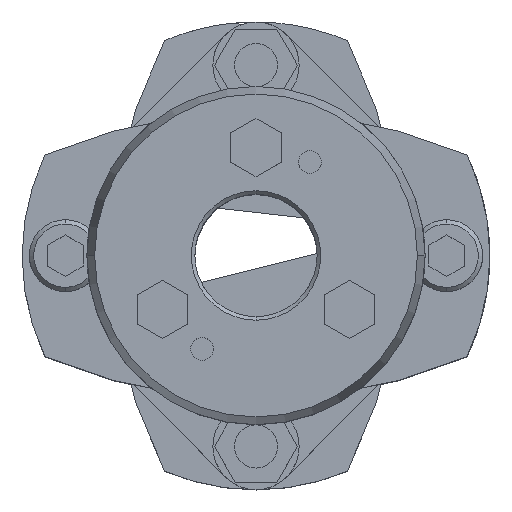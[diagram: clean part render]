
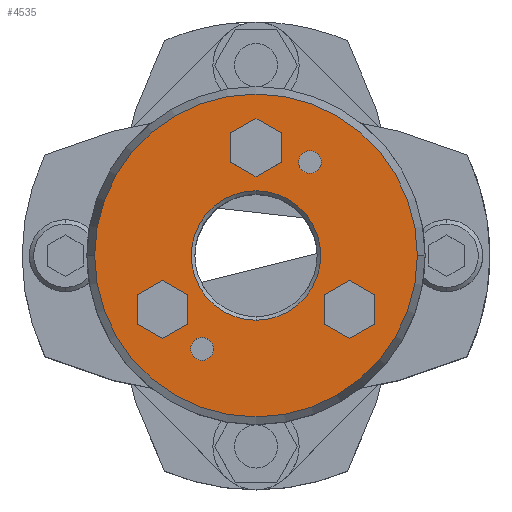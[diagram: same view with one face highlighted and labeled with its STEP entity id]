
A CAD part, top view. The second image highlights one B-rep face of the part: STEP entity #4535.
In plain terms, the highlighted planar face has unit normal (0, 0, 1).
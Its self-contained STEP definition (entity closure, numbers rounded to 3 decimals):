
#2241=CARTESIAN_POINT('',(-22.428,0.,40.0));
#2242=VERTEX_POINT('',#2241);
#2251=CARTESIAN_POINT('',(22.428,0.,40.0));
#2252=VERTEX_POINT('',#2251);
#2253=CARTESIAN_POINT('',(0.,0.,40.0));
#2254=DIRECTION('',(0.0,0.0,-1.0));
#2255=DIRECTION('',(-1.0,0.0,0.0));
#2256=AXIS2_PLACEMENT_3D('',#2253,#2254,#2255);
#2257=CIRCLE('',#2256,22.428);
#2258=EDGE_CURVE('',#2242,#2252,#2257,.T.);
#2285=CARTESIAN_POINT('',(0.,9.,40.0));
#2286=VERTEX_POINT('',#2285);
#2302=CARTESIAN_POINT('',(0.,-9.,40.0));
#2303=VERTEX_POINT('',#2302);
#2310=CARTESIAN_POINT('',(0.,0.,40.0));
#2311=DIRECTION('',(0.0,0.0,1.0));
#2312=DIRECTION('',(0.0,1.0,0.0));
#2313=AXIS2_PLACEMENT_3D('',#2310,#2311,#2312);
#2314=CIRCLE('',#2313,9.0);
#2315=EDGE_CURVE('',#2303,#2286,#2314,.T.);
#2723=CARTESIAN_POINT('',(7.5,14.59,40.0));
#2724=VERTEX_POINT('',#2723);
#2740=CARTESIAN_POINT('',(7.5,11.39,40.0));
#2741=VERTEX_POINT('',#2740);
#2748=CARTESIAN_POINT('',(7.5,12.99,40.0));
#2749=DIRECTION('',(0.0,0.0,-1.0));
#2750=DIRECTION('',(0.0,1.0,0.0));
#2751=AXIS2_PLACEMENT_3D('',#2748,#2749,#2750);
#2752=CIRCLE('',#2751,1.6);
#2753=EDGE_CURVE('',#2724,#2741,#2752,.T.);
#2765=CARTESIAN_POINT('',(-7.5,-11.39,40.0));
#2766=VERTEX_POINT('',#2765);
#2782=CARTESIAN_POINT('',(-7.5,-14.59,40.0));
#2783=VERTEX_POINT('',#2782);
#2790=CARTESIAN_POINT('',(-7.5,-12.99,40.0));
#2791=DIRECTION('',(0.0,0.0,-1.0));
#2792=DIRECTION('',(0.0,1.0,0.0));
#2793=AXIS2_PLACEMENT_3D('',#2790,#2791,#2792);
#2794=CIRCLE('',#2793,1.6);
#2795=EDGE_CURVE('',#2766,#2783,#2794,.T.);
#2888=CARTESIAN_POINT('',(-7.5,-12.99,40.0));
#2889=DIRECTION('',(0.0,0.0,-1.0));
#2890=DIRECTION('',(0.0,1.0,0.0));
#2891=AXIS2_PLACEMENT_3D('',#2888,#2889,#2890);
#2892=CIRCLE('',#2891,1.6);
#2893=EDGE_CURVE('',#2783,#2766,#2892,.T.);
#2922=CARTESIAN_POINT('',(7.5,12.99,40.0));
#2923=DIRECTION('',(0.0,0.0,-1.0));
#2924=DIRECTION('',(0.0,1.0,0.0));
#2925=AXIS2_PLACEMENT_3D('',#2922,#2923,#2924);
#2926=CIRCLE('',#2925,1.6);
#2927=EDGE_CURVE('',#2741,#2724,#2926,.T.);
#2965=CARTESIAN_POINT('',(0.,19.041,40.0));
#2966=VERTEX_POINT('',#2965);
#2973=CARTESIAN_POINT('',(-3.5,17.021,40.0));
#2974=VERTEX_POINT('',#2973);
#2975=CARTESIAN_POINT('',(-3.5,17.021,40.0));
#2976=DIRECTION('',(0.866,0.5,0.0));
#2977=VECTOR('',#2976,4.041);
#2978=LINE('',#2975,#2977);
#2979=EDGE_CURVE('',#2974,#2966,#2978,.T.);
#3003=CARTESIAN_POINT('',(3.5,17.021,40.0));
#3004=VERTEX_POINT('',#3003);
#3011=CARTESIAN_POINT('',(0.,19.041,40.0));
#3012=DIRECTION('',(0.866,-0.5,0.0));
#3013=VECTOR('',#3012,4.041);
#3014=LINE('',#3011,#3013);
#3015=EDGE_CURVE('',#2966,#3004,#3014,.T.);
#3034=CARTESIAN_POINT('',(3.5,12.979,40.0));
#3035=VERTEX_POINT('',#3034);
#3042=CARTESIAN_POINT('',(3.5,17.021,40.0));
#3043=DIRECTION('',(0.0,-1.0,0.0));
#3044=VECTOR('',#3043,4.041);
#3045=LINE('',#3042,#3044);
#3046=EDGE_CURVE('',#3004,#3035,#3045,.T.);
#3065=CARTESIAN_POINT('',(0.,10.959,40.0));
#3066=VERTEX_POINT('',#3065);
#3073=CARTESIAN_POINT('',(3.5,12.979,40.0));
#3074=DIRECTION('',(-0.866,-0.5,0.0));
#3075=VECTOR('',#3074,4.041);
#3076=LINE('',#3073,#3075);
#3077=EDGE_CURVE('',#3035,#3066,#3076,.T.);
#3096=CARTESIAN_POINT('',(-3.5,12.979,40.0));
#3097=VERTEX_POINT('',#3096);
#3104=CARTESIAN_POINT('',(0.,10.959,40.0));
#3105=DIRECTION('',(-0.866,0.5,0.0));
#3106=VECTOR('',#3105,4.041);
#3107=LINE('',#3104,#3106);
#3108=EDGE_CURVE('',#3066,#3097,#3107,.T.);
#3126=CARTESIAN_POINT('',(-3.5,12.979,40.0));
#3127=DIRECTION('',(0.0,1.0,0.0));
#3128=VECTOR('',#3127,4.041);
#3129=LINE('',#3126,#3128);
#3130=EDGE_CURVE('',#3097,#2974,#3129,.T.);
#3165=CARTESIAN_POINT('',(-12.99,-3.459,40.0));
#3166=VERTEX_POINT('',#3165);
#3173=CARTESIAN_POINT('',(-16.49,-5.479,40.0));
#3174=VERTEX_POINT('',#3173);
#3175=CARTESIAN_POINT('',(-16.49,-5.479,40.0));
#3176=DIRECTION('',(0.866,0.5,0.0));
#3177=VECTOR('',#3176,4.041);
#3178=LINE('',#3175,#3177);
#3179=EDGE_CURVE('',#3174,#3166,#3178,.T.);
#3203=CARTESIAN_POINT('',(-9.49,-5.479,40.0));
#3204=VERTEX_POINT('',#3203);
#3211=CARTESIAN_POINT('',(-12.99,-3.459,40.0));
#3212=DIRECTION('',(0.866,-0.5,0.0));
#3213=VECTOR('',#3212,4.041);
#3214=LINE('',#3211,#3213);
#3215=EDGE_CURVE('',#3166,#3204,#3214,.T.);
#3234=CARTESIAN_POINT('',(-9.49,-9.521,40.0));
#3235=VERTEX_POINT('',#3234);
#3242=CARTESIAN_POINT('',(-9.49,-5.479,40.0));
#3243=DIRECTION('',(0.0,-1.0,0.0));
#3244=VECTOR('',#3243,4.041);
#3245=LINE('',#3242,#3244);
#3246=EDGE_CURVE('',#3204,#3235,#3245,.T.);
#3265=CARTESIAN_POINT('',(-12.99,-11.541,40.0));
#3266=VERTEX_POINT('',#3265);
#3273=CARTESIAN_POINT('',(-9.49,-9.521,40.0));
#3274=DIRECTION('',(-0.866,-0.5,0.0));
#3275=VECTOR('',#3274,4.041);
#3276=LINE('',#3273,#3275);
#3277=EDGE_CURVE('',#3235,#3266,#3276,.T.);
#3296=CARTESIAN_POINT('',(-16.49,-9.521,40.0));
#3297=VERTEX_POINT('',#3296);
#3304=CARTESIAN_POINT('',(-12.99,-11.541,40.0));
#3305=DIRECTION('',(-0.866,0.5,0.0));
#3306=VECTOR('',#3305,4.041);
#3307=LINE('',#3304,#3306);
#3308=EDGE_CURVE('',#3266,#3297,#3307,.T.);
#3326=CARTESIAN_POINT('',(-16.49,-9.521,40.0));
#3327=DIRECTION('',(0.0,1.0,0.0));
#3328=VECTOR('',#3327,4.041);
#3329=LINE('',#3326,#3328);
#3330=EDGE_CURVE('',#3297,#3174,#3329,.T.);
#3365=CARTESIAN_POINT('',(12.99,-3.459,40.0));
#3366=VERTEX_POINT('',#3365);
#3373=CARTESIAN_POINT('',(9.49,-5.479,40.0));
#3374=VERTEX_POINT('',#3373);
#3375=CARTESIAN_POINT('',(9.49,-5.479,40.0));
#3376=DIRECTION('',(0.866,0.5,0.0));
#3377=VECTOR('',#3376,4.041);
#3378=LINE('',#3375,#3377);
#3379=EDGE_CURVE('',#3374,#3366,#3378,.T.);
#3403=CARTESIAN_POINT('',(16.49,-5.479,40.0));
#3404=VERTEX_POINT('',#3403);
#3411=CARTESIAN_POINT('',(12.99,-3.459,40.0));
#3412=DIRECTION('',(0.866,-0.5,0.0));
#3413=VECTOR('',#3412,4.041);
#3414=LINE('',#3411,#3413);
#3415=EDGE_CURVE('',#3366,#3404,#3414,.T.);
#3434=CARTESIAN_POINT('',(16.49,-9.521,40.0));
#3435=VERTEX_POINT('',#3434);
#3442=CARTESIAN_POINT('',(16.49,-5.479,40.0));
#3443=DIRECTION('',(0.0,-1.0,0.0));
#3444=VECTOR('',#3443,4.041);
#3445=LINE('',#3442,#3444);
#3446=EDGE_CURVE('',#3404,#3435,#3445,.T.);
#3465=CARTESIAN_POINT('',(12.99,-11.541,40.0));
#3466=VERTEX_POINT('',#3465);
#3473=CARTESIAN_POINT('',(16.49,-9.521,40.0));
#3474=DIRECTION('',(-0.866,-0.5,0.0));
#3475=VECTOR('',#3474,4.041);
#3476=LINE('',#3473,#3475);
#3477=EDGE_CURVE('',#3435,#3466,#3476,.T.);
#3496=CARTESIAN_POINT('',(9.49,-9.521,40.0));
#3497=VERTEX_POINT('',#3496);
#3504=CARTESIAN_POINT('',(12.99,-11.541,40.0));
#3505=DIRECTION('',(-0.866,0.5,0.0));
#3506=VECTOR('',#3505,4.041);
#3507=LINE('',#3504,#3506);
#3508=EDGE_CURVE('',#3466,#3497,#3507,.T.);
#3526=CARTESIAN_POINT('',(9.49,-9.521,40.0));
#3527=DIRECTION('',(0.0,1.0,0.0));
#3528=VECTOR('',#3527,4.041);
#3529=LINE('',#3526,#3528);
#3530=EDGE_CURVE('',#3497,#3374,#3529,.T.);
#4472=CARTESIAN_POINT('',(0.,0.,40.0));
#4473=DIRECTION('',(0.0,0.0,1.0));
#4474=DIRECTION('',(0.0,1.0,0.0));
#4475=AXIS2_PLACEMENT_3D('',#4472,#4473,#4474);
#4476=CIRCLE('',#4475,9.0);
#4477=EDGE_CURVE('',#2286,#2303,#4476,.T.);
#4484=CARTESIAN_POINT('',(-9.964,0.,40.0));
#4485=DIRECTION('',(0.0,0.0,1.0));
#4486=DIRECTION('',(0.0,1.0,0.0));
#4487=AXIS2_PLACEMENT_3D('',#4484,#4485,#4486);
#4488=PLANE('',#4487);
#4489=ORIENTED_EDGE('',*,*,#2258,.F.);
#4490=CARTESIAN_POINT('',(0.,0.,40.0));
#4491=DIRECTION('',(0.0,0.0,-1.0));
#4492=DIRECTION('',(-1.0,0.0,0.0));
#4493=AXIS2_PLACEMENT_3D('',#4490,#4491,#4492);
#4494=CIRCLE('',#4493,22.428);
#4495=EDGE_CURVE('',#2252,#2242,#4494,.T.);
#4496=ORIENTED_EDGE('',*,*,#4495,.F.);
#4497=EDGE_LOOP('',(#4489,#4496));
#4498=FACE_OUTER_BOUND('',#4497,.T.);
#4499=ORIENTED_EDGE('',*,*,#2795,.T.);
#4500=ORIENTED_EDGE('',*,*,#2893,.T.);
#4501=EDGE_LOOP('',(#4499,#4500));
#4502=FACE_BOUND('',#4501,.T.);
#4503=ORIENTED_EDGE('',*,*,#2753,.T.);
#4504=ORIENTED_EDGE('',*,*,#2927,.T.);
#4505=EDGE_LOOP('',(#4503,#4504));
#4506=FACE_BOUND('',#4505,.T.);
#4507=ORIENTED_EDGE('',*,*,#2979,.T.);
#4508=ORIENTED_EDGE('',*,*,#3015,.T.);
#4509=ORIENTED_EDGE('',*,*,#3046,.T.);
#4510=ORIENTED_EDGE('',*,*,#3077,.T.);
#4511=ORIENTED_EDGE('',*,*,#3108,.T.);
#4512=ORIENTED_EDGE('',*,*,#3130,.T.);
#4513=EDGE_LOOP('',(#4507,#4508,#4509,#4510,#4511,#4512));
#4514=FACE_BOUND('',#4513,.T.);
#4515=ORIENTED_EDGE('',*,*,#3179,.T.);
#4516=ORIENTED_EDGE('',*,*,#3215,.T.);
#4517=ORIENTED_EDGE('',*,*,#3246,.T.);
#4518=ORIENTED_EDGE('',*,*,#3277,.T.);
#4519=ORIENTED_EDGE('',*,*,#3308,.T.);
#4520=ORIENTED_EDGE('',*,*,#3330,.T.);
#4521=EDGE_LOOP('',(#4515,#4516,#4517,#4518,#4519,#4520));
#4522=FACE_BOUND('',#4521,.T.);
#4523=ORIENTED_EDGE('',*,*,#3379,.T.);
#4524=ORIENTED_EDGE('',*,*,#3415,.T.);
#4525=ORIENTED_EDGE('',*,*,#3446,.T.);
#4526=ORIENTED_EDGE('',*,*,#3477,.T.);
#4527=ORIENTED_EDGE('',*,*,#3508,.T.);
#4528=ORIENTED_EDGE('',*,*,#3530,.T.);
#4529=EDGE_LOOP('',(#4523,#4524,#4525,#4526,#4527,#4528));
#4530=FACE_BOUND('',#4529,.T.);
#4531=ORIENTED_EDGE('',*,*,#2315,.F.);
#4532=ORIENTED_EDGE('',*,*,#4477,.F.);
#4533=EDGE_LOOP('',(#4531,#4532));
#4534=FACE_BOUND('',#4533,.T.);
#4535=ADVANCED_FACE('',(#4498,#4502,#4506,#4514,#4522,#4530,#4534),#4488,.T.);
